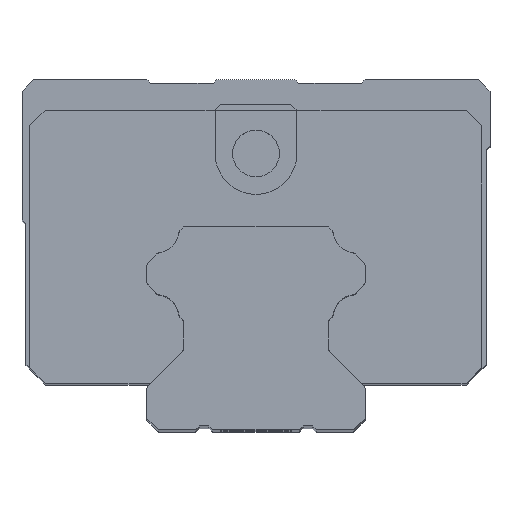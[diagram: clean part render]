
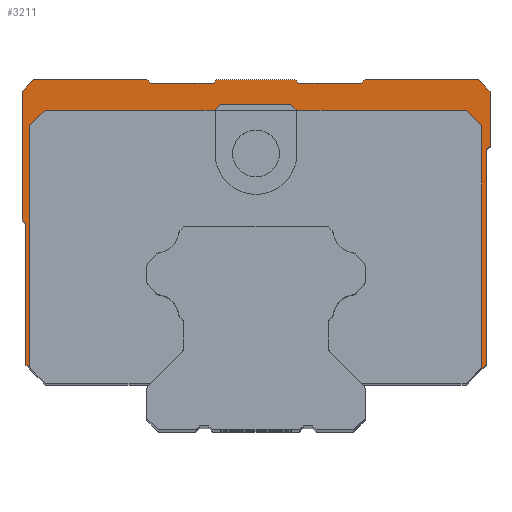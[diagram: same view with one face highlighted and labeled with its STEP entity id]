
A CAD part, top view. The second image highlights one B-rep face of the part: STEP entity #3211.
In plain terms, the highlighted planar face has unit normal (0, 0, 1).
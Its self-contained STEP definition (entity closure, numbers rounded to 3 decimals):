
#764=DIRECTION('',(1.,0.,0.));
#765=VECTOR('',#764,21.7);
#766=CARTESIAN_POINT('',(-27.037,15.039,46.5));
#767=LINE('',#766,#765);
#772=DIRECTION('',(1.,0.,0.));
#773=VECTOR('',#772,21.7);
#774=CARTESIAN_POINT('',(5.263,15.039,46.5));
#775=LINE('',#774,#773);
#833=DIRECTION('',(0.707,0.707,0.));
#834=VECTOR('',#833,2.884);
#835=CARTESIAN_POINT('',(26.924,-20.,46.5));
#836=LINE('',#835,#834);
#837=DIRECTION('',(-0.707,0.707,0.));
#838=VECTOR('',#837,2.828);
#839=CARTESIAN_POINT('',(28.963,13.039,46.5));
#840=LINE('',#839,#838);
#841=DIRECTION('',(-0.707,0.707,0.));
#842=VECTOR('',#841,1.131);
#843=CARTESIAN_POINT('',(5.263,15.039,46.5));
#844=LINE('',#843,#842);
#845=DIRECTION('',(-0.707,-0.707,0.));
#846=VECTOR('',#845,1.131);
#847=CARTESIAN_POINT('',(-4.537,15.839,46.5));
#848=LINE('',#847,#846);
#849=DIRECTION('',(-0.707,-0.707,0.));
#850=VECTOR('',#849,2.829);
#851=CARTESIAN_POINT('',(-27.037,15.039,46.5));
#852=LINE('',#851,#850);
#853=DIRECTION('',(-0.708,0.706,0.));
#854=VECTOR('',#853,0.654);
#855=CARTESIAN_POINT('',(-29.037,-17.962,46.5));
#856=LINE('',#855,#854);
#857=DIRECTION('',(0.,1.,0.));
#858=VECTOR('',#857,18.);
#859=CARTESIAN_POINT('',(-29.5,-17.5,46.5));
#860=LINE('',#859,#858);
#861=DIRECTION('',(-0.707,0.707,0.));
#862=VECTOR('',#861,0.707);
#863=CARTESIAN_POINT('',(-29.5,0.5,46.5));
#864=LINE('',#863,#862);
#865=DIRECTION('',(0.,1.,0.));
#866=VECTOR('',#865,16.5);
#867=CARTESIAN_POINT('',(-30.,1.,46.5));
#868=LINE('',#867,#866);
#869=DIRECTION('',(0.707,0.707,0.));
#870=VECTOR('',#869,2.121);
#871=CARTESIAN_POINT('',(-30.,17.5,46.5));
#872=LINE('',#871,#870);
#873=DIRECTION('',(1.,0.,0.));
#874=VECTOR('',#873,14.5);
#875=CARTESIAN_POINT('',(-28.5,19.,46.5));
#876=LINE('',#875,#874);
#877=DIRECTION('',(0.707,-0.707,0.));
#878=VECTOR('',#877,0.707);
#879=CARTESIAN_POINT('',(-14.,19.,46.5));
#880=LINE('',#879,#878);
#881=DIRECTION('',(1.,0.,0.));
#882=VECTOR('',#881,8.);
#883=CARTESIAN_POINT('',(-13.5,18.5,46.5));
#884=LINE('',#883,#882);
#885=DIRECTION('',(0.707,0.707,0.));
#886=VECTOR('',#885,0.707);
#887=CARTESIAN_POINT('',(-5.5,18.5,46.5));
#888=LINE('',#887,#886);
#889=DIRECTION('',(1.,0.,0.));
#890=VECTOR('',#889,10.);
#891=CARTESIAN_POINT('',(-5.,19.,46.5));
#892=LINE('',#891,#890);
#893=DIRECTION('',(0.707,-0.707,0.));
#894=VECTOR('',#893,0.707);
#895=CARTESIAN_POINT('',(5.,19.,46.5));
#896=LINE('',#895,#894);
#897=DIRECTION('',(1.,0.,0.));
#898=VECTOR('',#897,8.);
#899=CARTESIAN_POINT('',(5.5,18.5,46.5));
#900=LINE('',#899,#898);
#901=DIRECTION('',(0.707,0.707,0.));
#902=VECTOR('',#901,0.707);
#903=CARTESIAN_POINT('',(13.5,18.5,46.5));
#904=LINE('',#903,#902);
#905=DIRECTION('',(1.,0.,0.));
#906=VECTOR('',#905,14.5);
#907=CARTESIAN_POINT('',(14.,19.,46.5));
#908=LINE('',#907,#906);
#909=DIRECTION('',(0.707,-0.707,0.));
#910=VECTOR('',#909,2.121);
#911=CARTESIAN_POINT('',(28.5,19.,46.5));
#912=LINE('',#911,#910);
#913=DIRECTION('',(0.,-1.,0.));
#914=VECTOR('',#913,7.);
#915=CARTESIAN_POINT('',(30.,17.5,46.5));
#916=LINE('',#915,#914);
#917=DIRECTION('',(-0.707,-0.707,0.));
#918=VECTOR('',#917,0.707);
#919=CARTESIAN_POINT('',(30.,10.5,46.5));
#920=LINE('',#919,#918);
#921=DIRECTION('',(0.,-1.,0.));
#922=VECTOR('',#921,27.5);
#923=CARTESIAN_POINT('',(29.5,10.,46.5));
#924=LINE('',#923,#922);
#925=DIRECTION('',(-0.707,-0.707,0.));
#926=VECTOR('',#925,3.536);
#927=CARTESIAN_POINT('',(29.5,-17.5,46.5));
#928=LINE('',#927,#926);
#929=DIRECTION('',(-1.,0.,0.));
#930=VECTOR('',#929,0.076);
#931=CARTESIAN_POINT('',(27.,-20.,46.5));
#932=LINE('',#931,#930);
#937=DIRECTION('',(0.,-1.,0.));
#938=VECTOR('',#937,31.);
#939=CARTESIAN_POINT('',(28.963,13.039,46.5));
#940=LINE('',#939,#938);
#1005=DIRECTION('',(1.,0.,0.));
#1006=VECTOR('',#1005,9.);
#1007=CARTESIAN_POINT('',(-4.537,15.839,46.5));
#1008=LINE('',#1007,#1006);
#1117=DIRECTION('',(0.,1.,0.));
#1118=VECTOR('',#1117,31.001);
#1119=CARTESIAN_POINT('',(-29.037,-17.962,46.5));
#1120=LINE('',#1119,#1118);
#1651=CARTESIAN_POINT('',(-29.5,-17.5,46.5));
#1652=VERTEX_POINT('',#1651);
#1653=CARTESIAN_POINT('',(-29.037,-17.962,46.5));
#1654=VERTEX_POINT('',#1653);
#1803=CARTESIAN_POINT('',(26.924,-20.,46.5));
#1804=VERTEX_POINT('',#1803);
#1805=CARTESIAN_POINT('',(27.,-20.,46.5));
#1806=VERTEX_POINT('',#1805);
#1817=CARTESIAN_POINT('',(-29.037,13.039,46.5));
#1818=VERTEX_POINT('',#1817);
#1819=CARTESIAN_POINT('',(28.963,-17.961,46.5));
#1820=VERTEX_POINT('',#1819);
#1821=CARTESIAN_POINT('',(28.963,13.039,46.5));
#1822=VERTEX_POINT('',#1821);
#1823=CARTESIAN_POINT('',(26.963,15.039,46.5));
#1824=VERTEX_POINT('',#1823);
#1825=CARTESIAN_POINT('',(5.263,15.039,46.5));
#1826=VERTEX_POINT('',#1825);
#1827=CARTESIAN_POINT('',(4.463,15.839,46.5));
#1828=VERTEX_POINT('',#1827);
#1829=CARTESIAN_POINT('',(-4.537,15.839,46.5));
#1830=VERTEX_POINT('',#1829);
#1831=CARTESIAN_POINT('',(-5.337,15.039,46.5));
#1832=VERTEX_POINT('',#1831);
#1833=CARTESIAN_POINT('',(-27.037,15.039,46.5));
#1834=VERTEX_POINT('',#1833);
#1835=CARTESIAN_POINT('',(-29.5,0.5,46.5));
#1836=VERTEX_POINT('',#1835);
#1837=CARTESIAN_POINT('',(-30.,1.,46.5));
#1838=VERTEX_POINT('',#1837);
#1839=CARTESIAN_POINT('',(-30.,17.5,46.5));
#1840=VERTEX_POINT('',#1839);
#1841=CARTESIAN_POINT('',(-28.5,19.,46.5));
#1842=VERTEX_POINT('',#1841);
#1843=CARTESIAN_POINT('',(-14.,19.,46.5));
#1844=VERTEX_POINT('',#1843);
#1845=CARTESIAN_POINT('',(-13.5,18.5,46.5));
#1846=VERTEX_POINT('',#1845);
#1847=CARTESIAN_POINT('',(-5.5,18.5,46.5));
#1848=VERTEX_POINT('',#1847);
#1849=CARTESIAN_POINT('',(-5.,19.,46.5));
#1850=VERTEX_POINT('',#1849);
#1851=CARTESIAN_POINT('',(5.,19.,46.5));
#1852=VERTEX_POINT('',#1851);
#1853=CARTESIAN_POINT('',(5.5,18.5,46.5));
#1854=VERTEX_POINT('',#1853);
#1855=CARTESIAN_POINT('',(13.5,18.5,46.5));
#1856=VERTEX_POINT('',#1855);
#1857=CARTESIAN_POINT('',(14.,19.,46.5));
#1858=VERTEX_POINT('',#1857);
#1859=CARTESIAN_POINT('',(28.5,19.,46.5));
#1860=VERTEX_POINT('',#1859);
#1861=CARTESIAN_POINT('',(30.,17.5,46.5));
#1862=VERTEX_POINT('',#1861);
#1863=CARTESIAN_POINT('',(30.,10.5,46.5));
#1864=VERTEX_POINT('',#1863);
#1865=CARTESIAN_POINT('',(29.5,10.,46.5));
#1866=VERTEX_POINT('',#1865);
#1867=CARTESIAN_POINT('',(29.5,-17.5,46.5));
#1868=VERTEX_POINT('',#1867);
#3149=CARTESIAN_POINT('',(0.,0.,46.5));
#3150=DIRECTION('',(0.,0.,1.));
#3151=DIRECTION('',(1.,0.,0.));
#3152=AXIS2_PLACEMENT_3D('',#3149,#3150,#3151);
#3153=PLANE('',#3152);
#3155=ORIENTED_EDGE('',*,*,#3154,.T.);
#3157=ORIENTED_EDGE('',*,*,#3156,.F.);
#3159=ORIENTED_EDGE('',*,*,#3158,.T.);
#3160=ORIENTED_EDGE('',*,*,#3056,.F.);
#3162=ORIENTED_EDGE('',*,*,#3161,.T.);
#3164=ORIENTED_EDGE('',*,*,#3163,.F.);
#3166=ORIENTED_EDGE('',*,*,#3165,.T.);
#3167=ORIENTED_EDGE('',*,*,#3048,.F.);
#3168=ORIENTED_EDGE('',*,*,#3140,.T.);
#3170=ORIENTED_EDGE('',*,*,#3169,.F.);
#3171=ORIENTED_EDGE('',*,*,#2409,.T.);
#3173=ORIENTED_EDGE('',*,*,#3172,.T.);
#3175=ORIENTED_EDGE('',*,*,#3174,.T.);
#3177=ORIENTED_EDGE('',*,*,#3176,.T.);
#3179=ORIENTED_EDGE('',*,*,#3178,.T.);
#3181=ORIENTED_EDGE('',*,*,#3180,.T.);
#3183=ORIENTED_EDGE('',*,*,#3182,.T.);
#3185=ORIENTED_EDGE('',*,*,#3184,.T.);
#3187=ORIENTED_EDGE('',*,*,#3186,.T.);
#3189=ORIENTED_EDGE('',*,*,#3188,.T.);
#3191=ORIENTED_EDGE('',*,*,#3190,.T.);
#3193=ORIENTED_EDGE('',*,*,#3192,.T.);
#3195=ORIENTED_EDGE('',*,*,#3194,.T.);
#3197=ORIENTED_EDGE('',*,*,#3196,.T.);
#3199=ORIENTED_EDGE('',*,*,#3198,.T.);
#3201=ORIENTED_EDGE('',*,*,#3200,.T.);
#3203=ORIENTED_EDGE('',*,*,#3202,.T.);
#3205=ORIENTED_EDGE('',*,*,#3204,.T.);
#3207=ORIENTED_EDGE('',*,*,#3206,.T.);
#3208=ORIENTED_EDGE('',*,*,#2935,.T.);
#3209=EDGE_LOOP('',(#3155,#3157,#3159,#3160,#3162,#3164,#3166,#3167,#3168,#3170,
#3171,#3173,#3175,#3177,#3179,#3181,#3183,#3185,#3187,#3189,#3191,#3193,#3195,
#3197,#3199,#3201,#3203,#3205,#3207,#3208));
#3210=FACE_OUTER_BOUND('',#3209,.F.);
#3211=ADVANCED_FACE('',(#3210),#3153,.T.);
#2409=EDGE_CURVE('',#1654,#1652,#856,.T.);
#2935=EDGE_CURVE('',#1806,#1804,#932,.T.);
#3048=EDGE_CURVE('',#1834,#1832,#767,.T.);
#3056=EDGE_CURVE('',#1826,#1824,#775,.T.);
#3140=EDGE_CURVE('',#1834,#1818,#852,.T.);
#3154=EDGE_CURVE('',#1804,#1820,#836,.T.);
#3156=EDGE_CURVE('',#1822,#1820,#940,.T.);
#3158=EDGE_CURVE('',#1822,#1824,#840,.T.);
#3161=EDGE_CURVE('',#1826,#1828,#844,.T.);
#3163=EDGE_CURVE('',#1830,#1828,#1008,.T.);
#3165=EDGE_CURVE('',#1830,#1832,#848,.T.);
#3169=EDGE_CURVE('',#1654,#1818,#1120,.T.);
#3172=EDGE_CURVE('',#1652,#1836,#860,.T.);
#3174=EDGE_CURVE('',#1836,#1838,#864,.T.);
#3176=EDGE_CURVE('',#1838,#1840,#868,.T.);
#3178=EDGE_CURVE('',#1840,#1842,#872,.T.);
#3180=EDGE_CURVE('',#1842,#1844,#876,.T.);
#3182=EDGE_CURVE('',#1844,#1846,#880,.T.);
#3184=EDGE_CURVE('',#1846,#1848,#884,.T.);
#3186=EDGE_CURVE('',#1848,#1850,#888,.T.);
#3188=EDGE_CURVE('',#1850,#1852,#892,.T.);
#3190=EDGE_CURVE('',#1852,#1854,#896,.T.);
#3192=EDGE_CURVE('',#1854,#1856,#900,.T.);
#3194=EDGE_CURVE('',#1856,#1858,#904,.T.);
#3196=EDGE_CURVE('',#1858,#1860,#908,.T.);
#3198=EDGE_CURVE('',#1860,#1862,#912,.T.);
#3200=EDGE_CURVE('',#1862,#1864,#916,.T.);
#3202=EDGE_CURVE('',#1864,#1866,#920,.T.);
#3204=EDGE_CURVE('',#1866,#1868,#924,.T.);
#3206=EDGE_CURVE('',#1868,#1806,#928,.T.);
